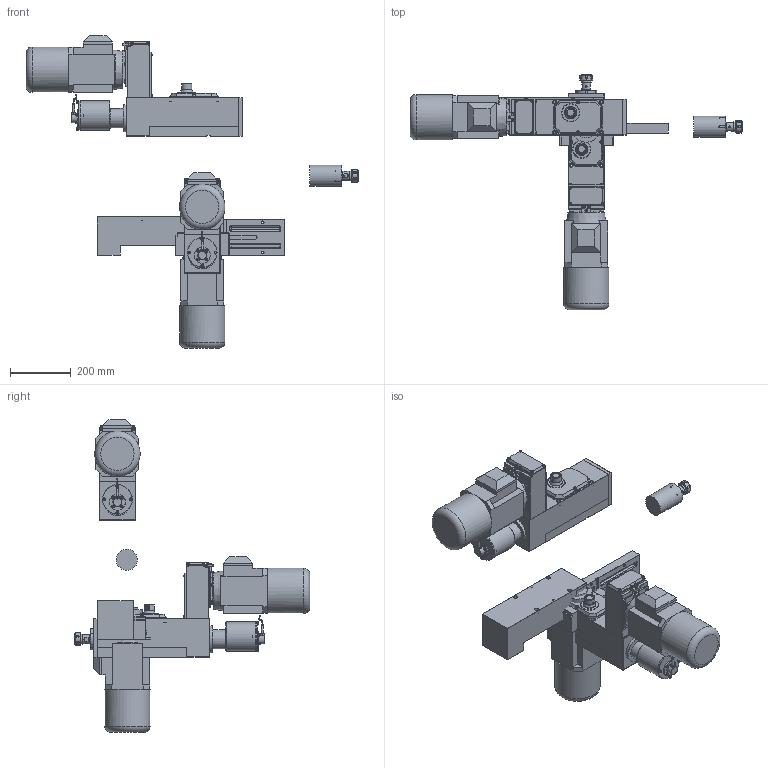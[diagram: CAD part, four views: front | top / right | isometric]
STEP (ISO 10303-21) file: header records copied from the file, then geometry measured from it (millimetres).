
FILE_DESCRIPTION( ( 'STEP AP203' ), '1' );
FILE_NAME( 'C:/Documents and Settings/Saverio/Desktop/disegni ironcad/unità serie 1/M 112/M 112_A02_P.stp', '2013-12-12T18:33:30', ( ' ' ), ( ' ' ), 'XStep 1.0', ' ', ' ' );
FILE_SCHEMA( ( 'CONFIG_CONTROL_DESIGN' ) );
Length unit declared in the file: metre
Products named in the file (54): Assem1; Assem2; Assem3; 1; 2; 3; 4; 5; 6; 7; 8; 9; 10; 11; 12; 13; 14; 15; 16; 17; 18; 19; 20; 21; 22; 23; 24; 25; 26; 27; 28; 29; 30; 31; 32; 33; 34; 35; 36; 37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
Bounding box: 1097.39 x 779 x 1032.13 mm (x, y, z)
Volume: 37689277.3 mm3; surface area: 3067459.1 mm2
Topology: 153 solids, 153 shells, 3231 faces, 7305 edges, 4560 vertices
Faces by surface type: plane 1983, cylinder 690, cone 450, sphere 60, bspline 30, torus 18
Full cylindrical faces by diameter (mm): 4.134 x3, 4.5 x12, 5 x39, 5.5 x15, 6 x21, 6.5 x6, 6.9 x12, 7 x3, 8 x3, 8.385 x15, 8.5 x24, 9.87 x24, 13.5 x12, 18 x12, 20 x3, 20.5 x3, 23 x3, 30 x12, 30.5 x3, 32 x6, 41 x3, 42 x3, 47 x3, 52 x6, 52.5 x3, 54 x9, 54.4 x3, 60 x3, 64 x3, 70 x3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
Entity records: 32850 total; most frequent: CARTESIAN_POINT 7404, DIRECTION 4787, ORIENTED_EDGE 4336, EDGE_CURVE 2168, AXIS2_PLACEMENT_3D 1738, VERTEX_POINT 1492, EDGE_LOOP 1434, LINE 1311
